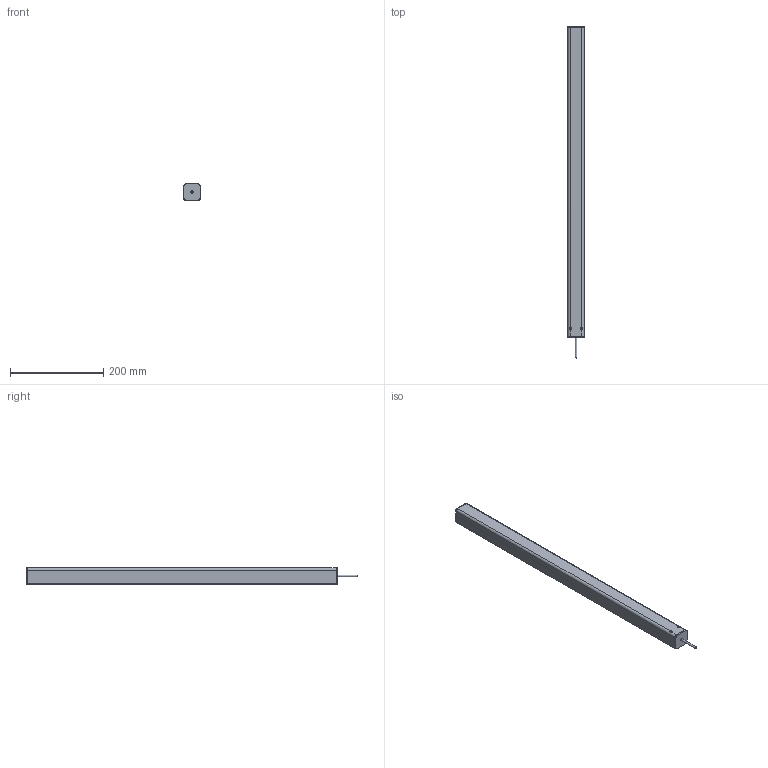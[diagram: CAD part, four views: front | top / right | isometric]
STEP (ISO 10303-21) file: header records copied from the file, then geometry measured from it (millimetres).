
FILE_DESCRIPTION(/* description */ ('Unknown'),/* implementation_level */ '2;1');
FILE_NAME(/* name */ '106.00005 Lineareinheit LA 1450_eingefahren',/* time_stamp */ '2017-08-23T16:49:04+02:00',/* author */ ('Unknown'),/* organization */ ('Unknown'),/* preprocessor_version */ 'ST-DEVELOPER v16.7',/* originating_system */ 'DEX',/* authorisation */ $);
FILE_SCHEMA (('AUTOMOTIVE_DESIGN {1 0 10303 214 3 1 1}'));
Products named in the file (9): 106.00005; 119.00005; 142.00014; 115.00001; 142.00011; 122.00018; 125.00051; 123.00005; 113.00002_70mm
Assembly tree (9 placements, depth 2):
  106.00005
    119.00005
    142.00014  x2
    115.00001
    142.00011
    122.00018
    125.00051
    123.00005
    113.00002_70mm
Bounding box: 35 x 713.5 x 35 mm (x, y, z)
Volume: 440100.4 mm3; surface area: 294782.2 mm2
Topology: 8 solids, 8 shells, 776 faces, 1818 edges, 1082 vertices
Faces by surface type: cylinder 273, bspline 224, plane 204, cone 36, torus 27, sphere 12
Full cylindrical faces by diameter (mm): 2.2 x1, 4 x7, 4.134 x4, 5 x1, 6.647 x1, 8.376 x1, 17.3 x1, 19 x1, 20.8 x3, 21 x1, 25 x1, 28.3 x1, 30.4 x1, 30.63 x1
Entity records: 74513 total; most frequent: CARTESIAN_POINT 58862, ORIENTED_EDGE 3422, DIRECTION 2541, EDGE_CURVE 1711, VERTEX_POINT 1037, AXIS2_PLACEMENT_3D 983, EDGE_LOOP 858, FACE_BOUND 858
